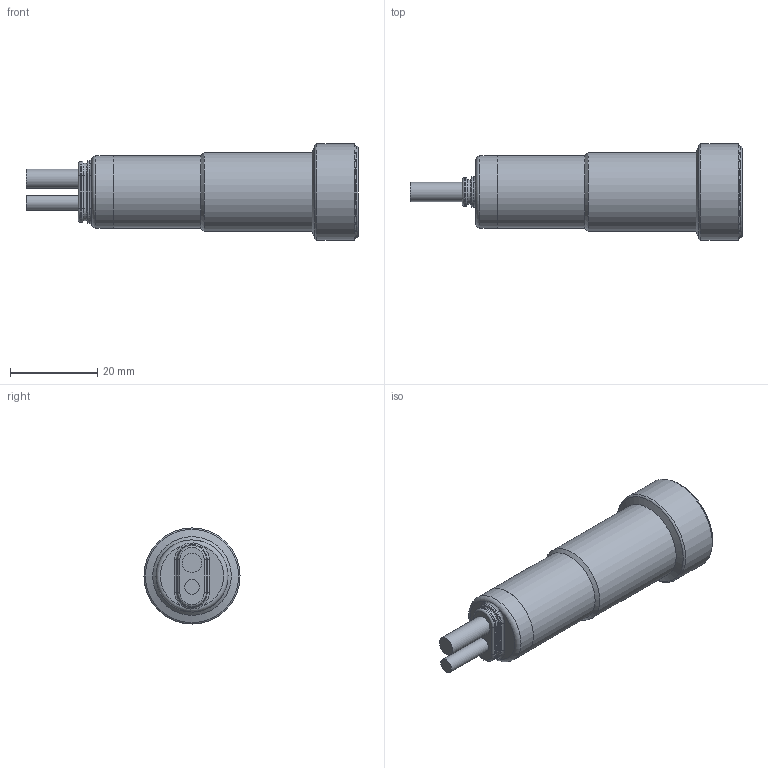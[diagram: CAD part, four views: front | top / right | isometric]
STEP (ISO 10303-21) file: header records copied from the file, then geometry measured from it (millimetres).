
FILE_DESCRIPTION((''),'2;1');
FILE_NAME('J:\Projekte\Kunststoff-Blechteile\Zeichnungen\Bibliothek Inventor\3D Solids\dbk+5\STP\dbk+5_Empf_XXX_M18.stp','2010-02-04T17:14:58',('Oliver Liedtke'),(''),'Autodesk Inventor 2009','Autodesk Inventor 2009','');
FILE_SCHEMA(('AUTOMOTIVE_DESIGN { 1 0 10303 214 1 1 1 1 }'));
Length unit declared in the file: millimetre
Products named in the file (1): dbk+5_Empf_XXX_M18
Bounding box: 76 x 22 x 22 mm (x, y, z)
Volume: 16261.4 mm3; surface area: 4511.8 mm2
Topology: 1 solids, 1 shells, 67 faces, 135 edges, 78 vertices
Faces by surface type: cylinder 23, plane 18, bspline 10, torus 9, cone 7
Full cylindrical faces by diameter (mm): 3.4 x1, 4.4 x1, 14.6 x1, 16.5 x1, 16.52 x1, 18 x1, 19.2 x1, 21 x1, 22 x1
Entity records: 2184 total; most frequent: CARTESIAN_POINT 700, DIRECTION 310, ORIENTED_EDGE 238, AXIS2_PLACEMENT_3D 137, EDGE_CURVE 119, EDGE_LOOP 90, CIRCLE 79, VERTEX_POINT 77
